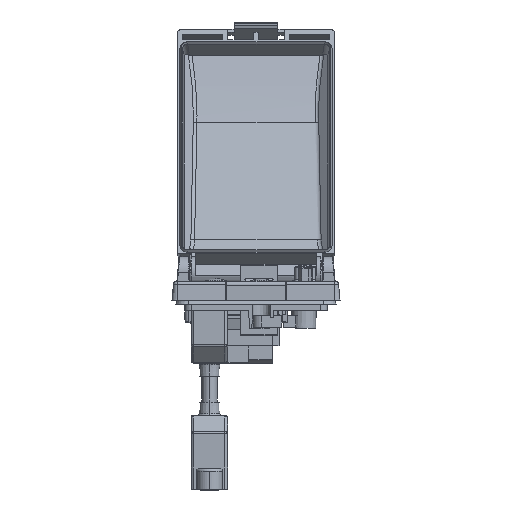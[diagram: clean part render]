
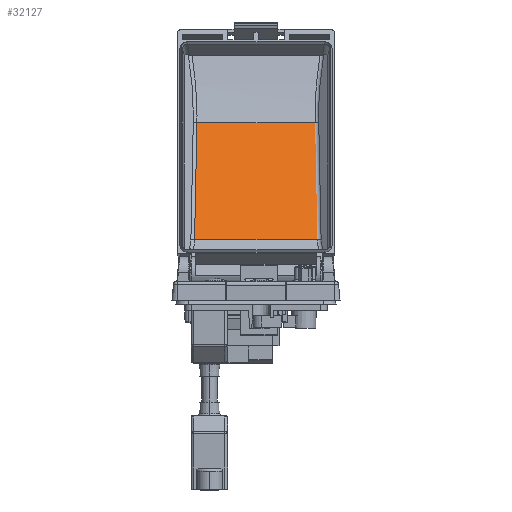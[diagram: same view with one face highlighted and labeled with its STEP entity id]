
A CAD part, left-side view. The second image highlights one B-rep face of the part: STEP entity #32127.
In plain terms, the highlighted planar face has unit normal (-0.865, 0, 0.502).
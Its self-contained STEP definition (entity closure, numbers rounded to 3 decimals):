
#37 = VERTEX_POINT ( 'NONE', #25445 ) ;
#3137 = CARTESIAN_POINT ( 'NONE',  ( 71.612, 196.074, 16.093 ) ) ;
#4961 = EDGE_LOOP ( 'NONE', ( #18116, #51693, #8103, #28943 ) ) ;
#6294 = CARTESIAN_POINT ( 'NONE',  ( 71.612, 243.595, 16.093 ) ) ;
#7164 = CARTESIAN_POINT ( 'NONE',  ( 97.905, 196.988, 61.35 ) ) ;
#8103 = ORIENTED_EDGE ( 'NONE', *, *, #31541, .T. ) ;
#9584 = LINE ( 'NONE', #57501, #83518 ) ;
#10608 = B_SPLINE_CURVE_WITH_KNOTS ( 'NONE', 3,
 ( #78236, #28497, #72643, #7164 ),
 .UNSPECIFIED., .F., .F.,
 ( 4, 4 ),
 ( 0., 1. ),
 .UNSPECIFIED. ) ;
#13714 = VECTOR ( 'NONE', #38714, 1000. ) ;
#13848 = CARTESIAN_POINT ( 'NONE',  ( 97.905, 189.435, 61.35 ) ) ;
#16119 = VERTEX_POINT ( 'NONE', #6294 ) ;
#18116 = ORIENTED_EDGE ( 'NONE', *, *, #75709, .F. ) ;
#25445 = CARTESIAN_POINT ( 'NONE',  ( 97.905, 196.988, 61.35 ) ) ;
#28497 = CARTESIAN_POINT ( 'NONE',  ( 80.377, 196.379, 31.179 ) ) ;
#28943 = ORIENTED_EDGE ( 'NONE', *, *, #58758, .T. ) ;
#31541 = EDGE_CURVE ( 'NONE', #53765, #37, #10608, .T. ) ;
#32127 = ADVANCED_FACE ( 'NONE', ( #43791 ), #75923, .F. ) ;
#35280 = DIRECTION ( 'NONE',  ( 0., 1., 0. ) ) ;
#35841 = EDGE_CURVE ( 'NONE', #53765, #16119, #9584, .T. ) ;
#38714 = DIRECTION ( 'NONE',  ( 0.502, -0.017, 0.865 ) ) ;
#39628 = VECTOR ( 'NONE', #57121, 1000. ) ;
#41081 = VERTEX_POINT ( 'NONE', #76036 ) ;
#43791 = FACE_OUTER_BOUND ( 'NONE', #4961, .T. ) ;
#51693 = ORIENTED_EDGE ( 'NONE', *, *, #35841, .F. ) ;
#51888 = LINE ( 'NONE', #53429, #13714 ) ;
#53429 = CARTESIAN_POINT ( 'NONE',  ( 71.612, 243.595, 16.093 ) ) ;
#53765 = VERTEX_POINT ( 'NONE', #3137 ) ;
#56035 = AXIS2_PLACEMENT_3D ( 'NONE', #82174, #68417, #75311 ) ;
#57121 = DIRECTION ( 'NONE',  ( 0., 1., 0. ) ) ;
#57501 = CARTESIAN_POINT ( 'NONE',  ( 71.612, 189.435, 16.093 ) ) ;
#58758 = EDGE_CURVE ( 'NONE', #37, #41081, #62020, .T. ) ;
#62020 = LINE ( 'NONE', #13848, #39628 ) ;
#68417 = DIRECTION ( 'NONE',  ( 0.865, 0., -0.502 ) ) ;
#72643 = CARTESIAN_POINT ( 'NONE',  ( 89.141, 196.683, 46.264 ) ) ;
#75311 = DIRECTION ( 'NONE',  ( -0.502, 0., -0.865 ) ) ;
#75709 = EDGE_CURVE ( 'NONE', #16119, #41081, #51888, .T. ) ;
#75923 = PLANE ( 'NONE',  #56035 ) ;
#76036 = CARTESIAN_POINT ( 'NONE',  ( 97.905, 242.682, 61.35 ) ) ;
#78236 = CARTESIAN_POINT ( 'NONE',  ( 71.612, 196.074, 16.093 ) ) ;
#82174 = CARTESIAN_POINT ( 'NONE',  ( 97.905, 189.435, 61.35 ) ) ;
#83518 = VECTOR ( 'NONE', #35280, 1000. ) ;
